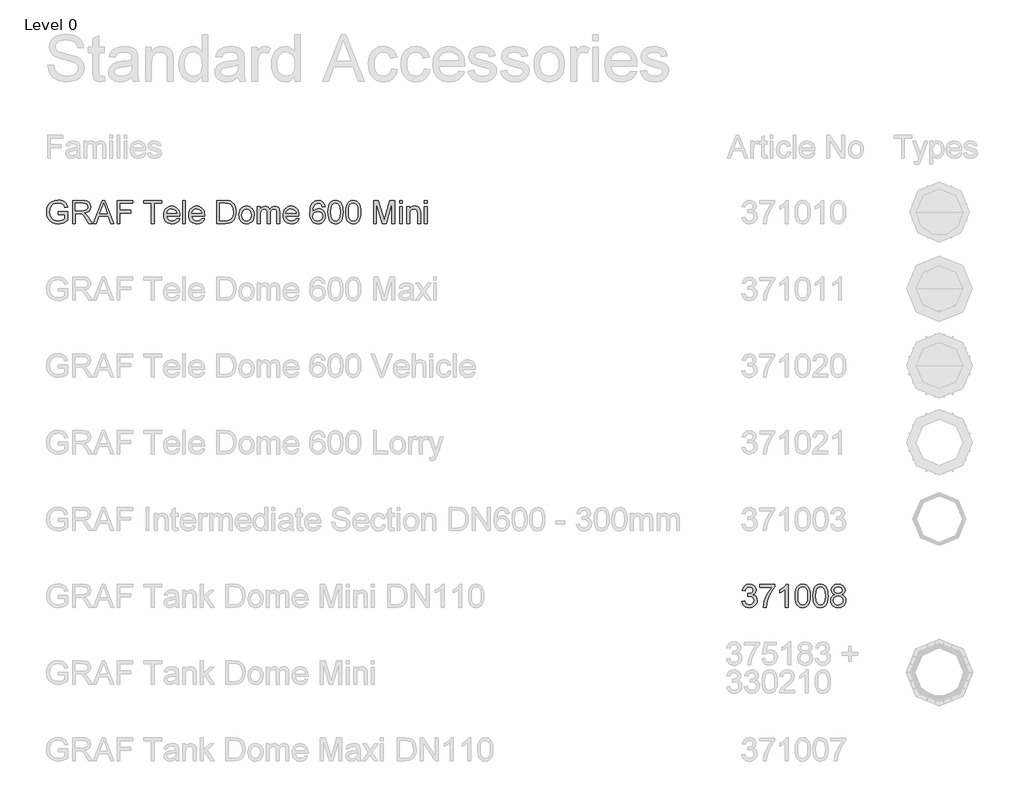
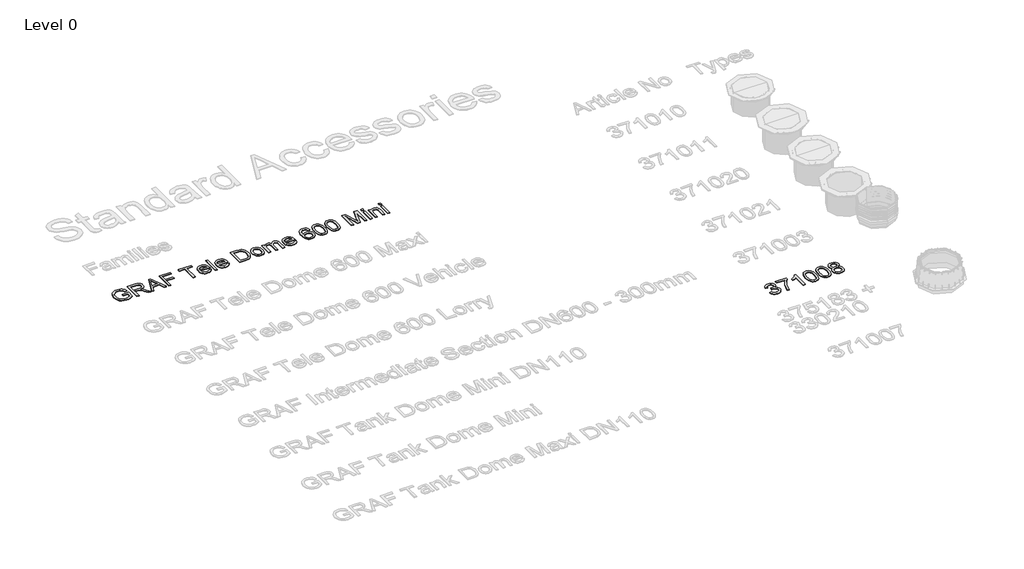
# One storey, part 9 of 19: 2 proxies.
"""IFC4 building model written with IfcOpenShell, lengths in millimetres."""

from ifc_helpers import new_model, si_unit, origin, origin_with_axes, place, context, project, spatial, polyline, outline, extrude, element, save

model = new_model("IFC4")

# Units and contexts
model_context = context("Model", 3, world=origin())
ifc_project = project(units=[si_unit("LENGTHUNIT", "METRE", prefix="MILLI")], contexts=[model_context])

# Site, building, storey
site = spatial("IfcSite", under=ifc_project)
building = spatial("IfcBuilding", under=site)
storey = spatial("IfcBuildingStorey", under=building, Name="Level 0", Elevation=0.0)

# Proxies
placement = place(None, origin())
element("IfcBuildingElementProxy", 1, Name="300mm Arial", ObjectType="300mm Arial", at=placement, inside=storey, context=model_context, shape_type="SweptSolid", body=[
    extrude(outline(polyline([(-15240.9940387, -9082.9794047), (-15240.9940387, -9045.3082884), (-15118.5629107, -9045.3082884), (-15118.5629107, -9157.9537553), (-15148.3153671, -9178.6471176), (-15179.0059225, -9193.4911561), (-15210.5610007, -9202.4306885), (-15242.9070251, -9205.4105327), (-15285.1674693, -9200.674052), (-15323.3628175, -9186.46461), (-15355.0926395, -9163.2788472), (-15377.9565055, -9131.6134045), (-15391.7796715, -9093.6295885), (-15396.3873935, -9051.4887059), (-15391.7980656, -9009.0443207), (-15378.0300819, -8969.5613856), (-15355.6536596, -8936.442809), (-15325.2390156, -8913.0914993), (-15288.1932987, -8899.2407422), (-15245.9236575, -8894.6238232), (-15214.8928112, -8897.3001647), (-15186.9889618, -8905.3291892), (-15163.4904994, -8918.1314827), (-15145.6758138, -8935.1276309), (-15132.4964413, -8957.1361712), (-15122.9039183, -8984.9756412), (-15157.6319786, -8994.7613023), (-15165.3850917, -8974.9048716), (-15174.8120678, -8959.9228773), (-15187.2832674, -8948.6289001), (-15204.169051, -8939.8365204), (-15224.3013932, -8934.1803347), (-15246.5122687, -8932.2949395), (-15272.5123287, -8934.3274875), (-15294.7415982, -8940.4251316), (-15313.1173039, -8949.8245166), (-15327.5566722, -8961.7622873), (-15346.9440533, -8990.7881767), (-15355.7732212, -9019.225455), (-15358.7162772, -9049.9436015), (-15355.175413, -9085.9684459), (-15344.5528204, -9115.6105377), (-15327.1703961, -9138.6583447), (-15303.3500369, -9154.9003348), (-15275.4737787, -9164.529646), (-15245.9236575, -9167.7394164), (-15219.831627, -9165.3205923), (-15194.3833899, -9158.0641199), (-15172.2828791, -9148.0669267), (-15156.234027, -9137.42594), (-15156.234027, -9082.9794047), (-15240.9940387, -9082.9794047)])), origin_with_axes(), (0.0, 0.0, 1.0), 10.0),
    extrude(outline(polyline([(-15057.3473467, -9200.7016432), (-15057.3473467, -8899.3327127), (-14927.4850024, -8899.3327127), (-14892.5821982, -8901.3652607), (-14867.1891434, -8907.4629048), (-14848.6294968, -8918.7200939), (-14834.2269167, -8936.2312768), (-14824.9838815, -8957.9455116), (-14821.9028698, -8981.811856), (-14827.0072325, -9011.4999331), (-14842.3203206, -9036.1112385), (-14853.9200997, -9046.1406214), (-14868.3019865, -9054.1558504), (-14905.4120827, -9064.1438466), (-14884.0013506, -9080.257078), (-14853.467145, -9119.0318402), (-14803.2144645, -9200.7016432), (-14846.9924219, -9200.7016432), (-14886.2086426, -9138.2352804), (-14914.5355562, -9096.8853441), (-14934.4379722, -9077.3508102), (-14952.3538253, -9070.1771113), (-14974.2060158, -9068.8527361), (-15019.6762304, -9068.8527361), (-15019.6762304, -9200.7016432), (-15057.3473467, -9200.7016432)]), holes=[polyline([(-15019.6762304, -9031.1816198), (-14935.3576771, -9031.1816198), (-14911.1418448, -9029.8480476), (-14892.3522719, -9025.8473309), (-14878.2072092, -9018.9127553), (-14867.9249074, -9008.7776063), (-14861.6617165, -8996.5179388), (-14859.5739861, -8983.2098076), (-14863.5563087, -8964.834102), (-14875.5032765, -8950.0268517), (-14896.058683, -8940.2595847), (-14925.8663217, -8937.003829), (-15019.6762304, -8937.003829), (-15019.6762304, -9031.1816198)])]), origin_with_axes(), (0.0, 0.0, 1.0), 10.0),
    extrude(outline(polyline([(-14791.0743586, -9200.7016432), (-14670.7769462, -8899.3327127), (-14638.6976362, -8899.3327127), (-14518.4002238, -9200.7016432), (-14558.2050557, -9200.7016432), (-14592.7123868, -9106.5238524), (-14716.835772, -9106.5238524), (-14751.2695268, -9200.7016432), (-14791.0743586, -9200.7016432)]), holes=[polyline([(-14703.003409, -9068.8527361), (-14606.4711735, -9068.8527361), (-14633.6208647, -8994.7613023), (-14654.7372912, -8937.003829), (-14673.499273, -8988.2865792), (-14703.003409, -9068.8527361)])]), origin_with_axes(), (0.0, 0.0, 1.0), 10.0),
    extrude(outline(polyline([(-14478.1539335, -9200.7016432), (-14478.1539335, -8899.3327127), (-14275.6716834, -8899.3327127), (-14275.6716834, -8937.003829), (-14440.4828172, -8937.003829), (-14440.4828172, -9026.4727303), (-14299.2161311, -9026.4727303), (-14299.2161311, -9064.1438466), (-14440.4828172, -9064.1438466), (-14440.4828172, -9200.7016432), (-14478.1539335, -9200.7016432)])), origin_with_axes(), (0.0, 0.0, 1.0), 10.0),
    extrude(outline(polyline([(-14030.8094274, -9200.7016432), (-14030.8094274, -8937.003829), (-14129.6961077, -8937.003829), (-14129.6961077, -8899.3327127), (-13894.2516308, -8899.3327127), (-13894.2516308, -8937.003829), (-13993.1383111, -8937.003829), (-13993.1383111, -9200.7016432), (-14030.8094274, -9200.7016432)])), origin_with_axes(), (0.0, 0.0, 1.0), 10.0),
    extrude(outline(polyline([(-13701.6286181, -9134.7771896), (-13664.6932658, -9139.4860792), (-13678.001397, -9167.3163521), (-13699.2373851, -9188.1200789), (-13727.9229837, -9201.0879193), (-13763.5799461, -9205.4105327), (-13786.9542484, -9203.5458308), (-13807.7809678, -9197.9517253), (-13826.0601045, -9188.6282159), (-13841.7916583, -9175.5753029), (-13854.4422004, -9159.1562696), (-13863.4783019, -9139.7343995), (-13868.8999628, -9117.3096927), (-13870.7071831, -9091.882149), (-13868.8815687, -9065.5923819), (-13863.4047255, -9042.4204147), (-13854.2766535, -9022.3662475), (-13841.4973527, -9005.4298801), (-13825.8071856, -8991.9745962), (-13807.9465147, -8982.363679), (-13787.9153401, -8976.5971288), (-13765.7136617, -8974.6749453), (-13744.2270539, -8976.5925302), (-13724.7959868, -8982.3452849), (-13707.4204603, -8991.9332094), (-13692.1004744, -9005.3563037), (-13679.5947859, -9022.2558829), (-13670.6621512, -9042.2732619), (-13665.3025704, -9065.4084409), (-13663.5160434, -9091.6614198), (-13663.7367726, -9101.8149629), (-13833.0360668, -9101.8149629), (-13826.5153584, -9130.0131178), (-13811.3678173, -9150.7432682), (-13789.5064297, -9163.4903794), (-13762.8441821, -9167.7394164), (-13742.7946134, -9165.7712477), (-13725.9088298, -9159.8667417), (-13712.1868314, -9149.6580163), (-13701.6286181, -9134.7771896)]), holes=[polyline([(-13833.0360668, -9064.1438466), (-13701.1871597, -9064.1438466), (-13706.2823254, -9044.2414306), (-13716.2703215, -9030.0043974), (-13738.2328766, -9016.7606456), (-13765.8608145, -9012.3460616), (-13791.2538692, -9015.8685317), (-13812.2507341, -9026.4359421), (-13826.8464522, -9042.9078584), (-13833.0360668, -9064.1438466)])]), origin_with_axes(), (0.0, 0.0, 1.0), 10.0),
    extrude(outline(polyline([(-13625.8449271, -9200.7016432), (-13625.8449271, -8899.3327127), (-13588.1738108, -8899.3327127), (-13588.1738108, -9200.7016432), (-13625.8449271, -9200.7016432)])), origin_with_axes(), (0.0, 0.0, 1.0), 10.0),
    extrude(outline(polyline([(-13376.71524, -9134.7771896), (-13339.7798877, -9139.4860792), (-13353.0880188, -9167.3163521), (-13374.324007, -9188.1200789), (-13403.0096056, -9201.0879193), (-13438.666568, -9205.4105327), (-13462.0408702, -9203.5458308), (-13482.8675897, -9197.9517253), (-13501.1467263, -9188.6282159), (-13516.8782801, -9175.5753029), (-13529.5288222, -9159.1562696), (-13538.5649238, -9139.7343995), (-13543.9865847, -9117.3096927), (-13545.793805, -9091.882149), (-13543.9681906, -9065.5923819), (-13538.4913474, -9042.4204147), (-13529.3632754, -9022.3662475), (-13516.5839745, -9005.4298801), (-13500.8938074, -8991.9745962), (-13483.0331366, -8982.363679), (-13463.0019619, -8976.5971288), (-13440.8002835, -8974.6749453), (-13419.3136758, -8976.5925302), (-13399.8826086, -8982.3452849), (-13382.5070821, -8991.9332094), (-13367.1870963, -9005.3563037), (-13354.6814077, -9022.2558829), (-13345.748773, -9042.2732619), (-13340.3891922, -9065.4084409), (-13338.6026653, -9091.6614198), (-13338.8233945, -9101.8149629), (-13508.1226887, -9101.8149629), (-13501.6019803, -9130.0131178), (-13486.4544391, -9150.7432682), (-13464.5930516, -9163.4903794), (-13437.930804, -9167.7394164), (-13417.8812352, -9165.7712477), (-13400.9954517, -9159.8667417), (-13387.2734532, -9149.6580163), (-13376.71524, -9134.7771896)]), holes=[polyline([(-13508.1226887, -9064.1438466), (-13376.2737816, -9064.1438466), (-13381.3689472, -9044.2414306), (-13391.3569434, -9030.0043974), (-13413.3194985, -9016.7606456), (-13440.9474363, -9012.3460616), (-13466.3404911, -9015.8685317), (-13487.3373559, -9026.4359421), (-13501.9330741, -9042.9078584), (-13508.1226887, -9064.1438466)])]), origin_with_axes(), (0.0, 0.0, 1.0), 10.0),
    extrude(outline(polyline([(-13178.500421, -9200.7016432), (-13178.500421, -8899.3327127), (-13074.5369691, -8899.3327127), (-13020.7526214, -8903.6737203), (-12996.7299272, -8912.0430357), (-12976.4596292, -8925.2316052), (-12955.6191142, -8948.1874417), (-12940.7750757, -8976.7350845), (-12931.8907255, -9010.3227107), (-12928.9292754, -9048.3984972), (-12930.9342323, -9080.7445216), (-12936.9491029, -9109.209391), (-12946.1093646, -9133.4436174), (-12957.5504947, -9153.097713), (-12970.7206701, -9168.6131361), (-12985.0680679, -9180.4313452), (-13001.5399842, -9189.1961338), (-13021.0837152, -9195.5512952), (-13069.533774, -9200.7016432), (-13178.500421, -9200.7016432)]), holes=[polyline([(-13140.8293047, -9163.0305269), (-13074.1690871, -9163.0305269), (-13046.5963316, -9161.6693635), (-13025.6822402, -9157.5858733), (-13009.9001026, -9151.0191797), (-12997.7232085, -9142.2084059), (-12984.6358066, -9125.9020365), (-12974.8041602, -9104.794807), (-12968.6513339, -9078.794747), (-12966.6003918, -9047.809886), (-12970.6195026, -9006.7542553), (-12982.6768349, -8976.4407789), (-13000.4915206, -8955.618658), (-13021.782691, -8943.0370938), (-13043.4509405, -8938.5121452), (-13075.1991567, -8937.003829), (-13140.8293047, -8937.003829), (-13140.8293047, -9163.0305269)])]), origin_with_axes(), (0.0, 0.0, 1.0), 10.0),
    extrude(outline(polyline([(-12891.2581591, -9090.042739), (-12889.2210126, -9061.3801331), (-12883.1095729, -9036.6814556), (-12872.9238402, -9015.9467067), (-12858.6638144, -8999.1758862), (-12844.3072195, -8988.4567246), (-12828.4607026, -8980.8001806), (-12811.1242635, -8976.2062541), (-12792.2979024, -8974.6749453), (-12771.514869, -8976.5396472), (-12752.7229968, -8982.1337528), (-12735.9222859, -8991.4572621), (-12721.1127364, -9004.5101751), (-12709.0255136, -9020.8510335), (-12700.391783, -9040.0383788), (-12695.2115447, -9062.0722111), (-12693.4847985, -9086.9525303), (-12696.5382191, -9125.0099227), (-12705.6984808, -9153.9806298), (-12720.6988691, -9175.6764705), (-12741.2726697, -9191.9092635), (-12765.7092312, -9202.0352154), (-12792.2979024, -9205.4105327), (-12813.3844386, -9203.5527286), (-12832.3510547, -9197.9793164), (-12849.1977508, -9188.690296), (-12863.9245269, -9175.6856675), (-12875.882991, -9159.18616), (-12884.4247511, -9139.4125028), (-12889.5498071, -9116.3646958), (-12891.2581591, -9090.042739)]), holes=[polyline([(-12853.5870428, -9089.9691626), (-12849.2276412, -9124.0626265), (-12836.1494363, -9148.3520353), (-12816.4677495, -9162.8925711), (-12792.2979024, -9167.7394164), (-12768.23842, -9162.86498), (-12748.5935214, -9148.2416707), (-12735.5153165, -9123.6303652), (-12731.1559148, -9088.7919402), (-12735.5429076, -9055.6917577), (-12748.703886, -9031.7334428), (-12768.3763757, -9017.1929069), (-12792.2979024, -9012.3460616), (-12816.4677495, -9017.1745128), (-12836.1494363, -9031.6598664), (-12849.2276412, -9055.8940928), (-12853.5870428, -9089.9691626)])]), origin_with_axes(), (0.0, 0.0, 1.0), 10.0),
    extrude(outline(polyline([(-12651.1047927, -9200.7016432), (-12651.1047927, -8979.3838349), (-12613.4336764, -8979.3838349), (-12613.4336764, -9015.8041524), (-12602.1029109, -8999.0747187), (-12587.5347839, -8985.9689226), (-12570.2259361, -8977.4984396), (-12550.673008, -8974.6749453), (-12529.7221284, -8977.5536219), (-12512.9283153, -8986.1896518), (-12500.3835393, -9000.0128178), (-12492.1797708, -9018.4529028), (-12478.4485753, -8999.3000464), (-12462.7859994, -8985.6194347), (-12445.1920429, -8977.4110677), (-12425.666706, -8974.6749453), (-12397.3489895, -8979.227485), (-12376.4073069, -8992.8851041), (-12363.4670577, -9016.0156845), (-12359.1536413, -9048.9871084), (-12359.1536413, -9200.7016432), (-12396.8247576, -9200.7016432), (-12396.8247576, -9065.1739161), (-12400.3196366, -9033.7200056), (-12405.2308612, -9025.0471875), (-12412.9747772, -9018.2321736), (-12422.9351822, -9013.8175896), (-12434.4958739, -9012.3460616), (-12454.9041276, -9016.1168521), (-12471.5415908, -9027.4292234), (-12482.6056419, -9047.0557279), (-12486.2936589, -9075.7689176), (-12486.2936589, -9200.7016432), (-12523.9647752, -9200.7016432), (-12523.9647752, -9060.9800614), (-12526.144476, -9039.6796939), (-12532.6835784, -9024.4861675), (-12544.1890878, -9015.3810881), (-12561.2680095, -9012.3460616), (-12575.7809542, -9014.3694126), (-12589.1534647, -9020.4394655), (-12600.1899246, -9030.4090676), (-12607.6947173, -9044.131066), (-12611.9989366, -9063.1689593), (-12613.4336764, -9089.0862458), (-12613.4336764, -9200.7016432), (-12651.1047927, -9200.7016432)])), origin_with_axes(), (0.0, 0.0, 1.0), 10.0),
    extrude(outline(polyline([(-12147.6950705, -9134.7771896), (-12110.7597182, -9139.4860792), (-12124.0678494, -9167.3163521), (-12145.3038375, -9188.1200789), (-12173.9894361, -9201.0879193), (-12209.6463985, -9205.4105327), (-12233.0207007, -9203.5458308), (-12253.8474202, -9197.9517253), (-12272.1265568, -9188.6282159), (-12287.8581107, -9175.5753029), (-12300.5086528, -9159.1562696), (-12309.5447543, -9139.7343995), (-12314.9664152, -9117.3096927), (-12316.7736355, -9091.882149), (-12314.9480211, -9065.5923819), (-12309.4711779, -9042.4204147), (-12300.3431059, -9022.3662475), (-12287.5638051, -9005.4298801), (-12271.873638, -8991.9745962), (-12254.0129671, -8982.363679), (-12233.9817925, -8976.5971288), (-12211.7801141, -8974.6749453), (-12190.2935063, -8976.5925302), (-12170.8624391, -8982.3452849), (-12153.4869127, -8991.9332094), (-12138.1669268, -9005.3563037), (-12125.6612382, -9022.2558829), (-12116.7286035, -9042.2732619), (-12111.3690227, -9065.4084409), (-12109.5824958, -9091.6614198), (-12109.803225, -9101.8149629), (-12279.1025192, -9101.8149629), (-12272.5818108, -9130.0131178), (-12257.4342697, -9150.7432682), (-12235.5728821, -9163.4903794), (-12208.9106345, -9167.7394164), (-12188.8610658, -9165.7712477), (-12171.9752822, -9159.8667417), (-12158.2532838, -9149.6580163), (-12147.6950705, -9134.7771896)]), holes=[polyline([(-12279.1025192, -9064.1438466), (-12147.2536121, -9064.1438466), (-12152.3487777, -9044.2414306), (-12162.3367739, -9030.0043974), (-12184.299329, -9016.7606456), (-12211.9272668, -9012.3460616), (-12237.3203216, -9015.8685317), (-12258.3171864, -9026.4359421), (-12272.9129046, -9042.9078584), (-12279.1025192, -9064.1438466)])]), origin_with_axes(), (0.0, 0.0, 1.0), 10.0),
    extrude(outline(polyline([(-11770.542449, -8979.3838349), (-11808.2135653, -8984.0927244), (-11814.2836183, -8965.4227132), (-11822.4873868, -8952.675602), (-11839.5755054, -8940.9217723), (-11860.2320795, -8937.003829), (-11877.7432624, -8939.2846974), (-11894.2243758, -8946.1273025), (-11908.3786356, -8960.5390797), (-11919.9393273, -8980.3771163), (-11927.7476226, -9008.4373154), (-11930.6446933, -9047.5155804), (-11915.5339404, -9029.8848358), (-11897.4249492, -9017.4596214), (-11877.3293952, -9010.0927844), (-11856.2589539, -9007.6371721), (-11838.1591597, -9009.3156337), (-11821.4573172, -9014.3510185), (-11806.1534262, -9022.7433265), (-11792.2474868, -9034.4925578), (-11780.6913936, -9048.8997364), (-11772.4370413, -9065.2658866), (-11767.48443, -9083.5910085), (-11765.8335595, -9103.875102), (-11768.9421624, -9130.8500493), (-11778.2679709, -9155.856828), (-11793.038433, -9177.065225), (-11812.4809965, -9192.6450275), (-11835.7127445, -9202.2191564), (-11861.8507602, -9205.4105327), (-11884.3076568, -9203.2952112), (-11904.589451, -9196.9492468), (-11922.696143, -9186.3726395), (-11938.6277326, -9171.5653892), (-11951.6162663, -9151.9020965), (-11960.8937904, -9126.7573621), (-11966.4603048, -9096.131186), (-11968.3158096, -9060.0235682), (-11966.2556705, -9019.5427532), (-11960.075253, -8984.9940353), (-11949.7745571, -8956.3774146), (-11935.3535829, -8933.6928911), (-11919.7231966, -8918.660313), (-11901.6004098, -8907.9227573), (-11880.9852225, -8901.4802239), (-11857.8776347, -8899.3327127), (-11824.8234374, -8904.6486076), (-11798.3543279, -8920.596292), (-11779.8130753, -8945.9249674), (-11770.542449, -8979.3838349)]), holes=[polyline([(-11930.6446933, -9103.2864908), (-11928.4649925, -9119.9791364), (-11921.9258901, -9135.9176238), (-11911.772347, -9149.6212281), (-11898.7493244, -9159.6092243), (-11883.0315661, -9165.7068684), (-11864.7938162, -9167.7394164), (-11839.9341904, -9163.5271676), (-11820.3904594, -9150.890421), (-11807.7261217, -9131.0247933), (-11803.5046758, -9105.1259008), (-11807.6709394, -9080.266275), (-11820.1697302, -9061.3111552), (-11840.044555, -9049.3090051), (-11866.3389206, -9045.3082884), (-11891.1617582, -9049.3090051), (-11911.9194998, -9061.3111552), (-11925.9633949, -9079.8064225), (-11930.6446933, -9103.2864908)])]), origin_with_axes(), (0.0, 0.0, 1.0), 10.0),
    extrude(outline(polyline([(-11732.8713327, -9052.4451991), (-11730.1030207, -9004.2066725), (-11721.7980847, -8965.7354129), (-11708.0392981, -8936.442809), (-11688.9094343, -8915.7402497), (-11664.2705377, -8903.434597), (-11633.9846524, -8899.3327127), (-11610.7712985, -8901.7607339), (-11589.9859658, -8909.0447974), (-11572.6035415, -8920.8997947), (-11559.598913, -8937.0406172), (-11549.7764637, -8957.3293093), (-11541.9405772, -8981.627915), (-11536.8086234, -9012.4840174), (-11535.0979721, -9052.4451991), (-11537.838693, -9100.4078142), (-11546.0608556, -9138.7871034), (-11559.7368687, -9168.1072984), (-11578.8391413, -9188.8926311), (-11603.5332203, -9201.2810573), (-11633.9846524, -9205.4105327), (-11654.733197, -9203.617108), (-11673.1272967, -9198.2368338), (-11689.1669517, -9189.2697102), (-11702.8521619, -9176.7157371), (-11715.9855492, -9154.0220165), (-11725.36654, -9125.7456867), (-11730.9951346, -9091.8867475), (-11732.8713327, -9052.4451991)]), holes=[polyline([(-11695.2002164, -9052.3716227), (-11690.7856325, -9111.6282151), (-11685.2674026, -9131.8962138), (-11677.5418807, -9145.9240141), (-11657.8234057, -9162.2855658), (-11633.9846524, -9167.7394164), (-11610.1458991, -9162.2671717), (-11590.4274242, -9145.8504377), (-11582.7019023, -9131.7996447), (-11577.1836724, -9111.5362446), (-11572.7690884, -9052.3716227), (-11577.0365196, -8994.4486026), (-11582.3708085, -8974.2472825), (-11589.838813, -8959.8860891), (-11609.5204997, -8942.7243941), (-11634.4261108, -8937.003829), (-11658.0073467, -8942.0438124), (-11676.9532695, -8957.1637624), (-11684.9363088, -8972.7987472), (-11690.6384797, -8993.8783855), (-11695.2002164, -9052.3716227)])]), origin_with_axes(), (0.0, 0.0, 1.0), 10.0),
    extrude(outline(polyline([(-11502.1357454, -9052.4451991), (-11499.3674333, -9004.2066725), (-11491.0624973, -8965.7354129), (-11477.3037107, -8936.442809), (-11458.1738469, -8915.7402497), (-11433.5349503, -8903.434597), (-11403.2490651, -8899.3327127), (-11380.0357112, -8901.7607339), (-11359.2503784, -8909.0447974), (-11341.8679542, -8920.8997947), (-11328.8633256, -8937.0406172), (-11319.0408764, -8957.3293093), (-11311.2049899, -8981.627915), (-11306.073036, -9012.4840174), (-11304.3623847, -9052.4451991), (-11307.1031056, -9100.4078142), (-11315.3252682, -9138.7871034), (-11329.0012814, -9168.1072984), (-11348.103554, -9188.8926311), (-11372.7976329, -9201.2810573), (-11403.2490651, -9205.4105327), (-11423.9976096, -9203.617108), (-11442.3917093, -9198.2368338), (-11458.4313643, -9189.2697102), (-11472.1165745, -9176.7157371), (-11485.2499618, -9154.0220165), (-11494.6309527, -9125.7456867), (-11500.2595472, -9091.8867475), (-11502.1357454, -9052.4451991)]), holes=[polyline([(-11464.464629, -9052.3716227), (-11460.0500451, -9111.6282151), (-11454.5318152, -9131.8962138), (-11446.8062933, -9145.9240141), (-11427.0878183, -9162.2855658), (-11403.2490651, -9167.7394164), (-11379.4103118, -9162.2671717), (-11359.6918368, -9145.8504377), (-11351.9663149, -9131.7996447), (-11346.448085, -9111.5362446), (-11342.0335011, -9052.3716227), (-11346.3009322, -8994.4486026), (-11351.6352211, -8974.2472825), (-11359.1032256, -8959.8860891), (-11378.7849124, -8942.7243941), (-11403.6905234, -8937.003829), (-11427.2717593, -8942.0438124), (-11446.2176821, -8957.1637624), (-11454.2007214, -8972.7987472), (-11459.9028923, -8993.8783855), (-11464.464629, -9052.3716227)])]), origin_with_axes(), (0.0, 0.0, 1.0), 10.0),
    extrude(outline(polyline([(-11139.5512509, -9200.7016432), (-11139.5512509, -8899.3327127), (-11074.7304434, -8899.3327127), (-11013.073421, -9111.7477767), (-11000.6390095, -9156.1143454), (-10987.1745285, -9108.0689568), (-10926.5475757, -8899.3327127), (-10861.7267682, -8899.3327127), (-10861.7267682, -9200.7016432), (-10899.3978845, -9200.7016432), (-10899.3978845, -8937.003829), (-10975.1079991, -9200.7016432), (-11026.17002, -9200.7016432), (-11101.8801346, -8937.003829), (-11101.8801346, -9200.7016432), (-11139.5512509, -9200.7016432)])), origin_with_axes(), (0.0, 0.0, 1.0), 10.0),
    extrude(outline(polyline([(-10800.5112042, -8937.003829), (-10800.5112042, -8899.3327127), (-10762.8400878, -8899.3327127), (-10762.8400878, -8937.003829), (-10800.5112042, -8937.003829)])), origin_with_axes(), (0.0, 0.0, 1.0), 10.0),
    extrude(outline(polyline([(-10800.5112042, -9200.7016432), (-10800.5112042, -8979.3838349), (-10762.8400878, -8979.3838349), (-10762.8400878, -9200.7016432), (-10800.5112042, -9200.7016432)])), origin_with_axes(), (0.0, 0.0, 1.0), 10.0),
    extrude(outline(polyline([(-10706.3334134, -9200.7016432), (-10706.3334134, -8979.3838349), (-10668.6622971, -8979.3838349), (-10668.6622971, -9010.2859225), (-10655.5748951, -8994.70612), (-10639.8571369, -8983.5776896), (-10621.5090224, -8976.9006314), (-10600.5305516, -8974.6749453), (-10581.9617079, -8976.4683701), (-10564.9563626, -8981.8486442), (-10550.7745117, -8990.1443832), (-10540.676151, -9000.6842024), (-10529.3821737, -9028.3857166), (-10527.3956109, -9064.8060342), (-10527.3956109, -9200.7016432), (-10565.0667272, -9200.7016432), (-10565.0667272, -9069.8828057), (-10569.4077348, -9036.5526969), (-10575.4134084, -9026.6290801), (-10584.748414, -9018.9311494), (-10596.7137759, -9013.9923336), (-10610.6105182, -9012.3460616), (-10632.6742409, -9016.0432757), (-10651.4822079, -9027.1349178), (-10658.9984969, -9036.1894135), (-10664.3672748, -9048.5640441), (-10668.6622971, -9083.2737103), (-10668.6622971, -9200.7016432), (-10706.3334134, -9200.7016432)])), origin_with_axes(), (0.0, 0.0, 1.0), 10.0),
    extrude(outline(polyline([(-10475.597826, -8937.003829), (-10475.597826, -8899.3327127), (-10437.9267097, -8899.3327127), (-10437.9267097, -8937.003829), (-10475.597826, -8937.003829)])), origin_with_axes(), (0.0, 0.0, 1.0), 10.0),
    extrude(outline(polyline([(-10475.597826, -9200.7016432), (-10475.597826, -8979.3838349), (-10437.9267097, -8979.3838349), (-10437.9267097, -9200.7016432), (-10475.597826, -9200.7016432)])), origin_with_axes(), (0.0, 0.0, 1.0), 10.0),
])
element("IfcBuildingElementProxy", 2, Name="300mm Arial", ObjectType="300mm Arial", at=placement, inside=storey, context=model_context, shape_type="SweptSolid", body=[
    extrude(outline(polyline([(-6342.0538732, -14120.650521), (-6304.3827568, -14115.9416315), (-6295.9490621, -14139.6148379), (-6283.5974241, -14155.5993106), (-6266.7208376, -14164.7043899), (-6244.7122972, -14167.7394164), (-6218.8869812, -14163.5639558), (-6198.947777, -14151.0375738), (-6186.2006659, -14132.3491685), (-6181.9516289, -14109.6876376), (-6186.1638777, -14088.1757379), (-6198.8006242, -14070.7289343), (-6217.930488, -14059.1682426), (-6241.6220885, -14055.3146787), (-6268.0360157, -14059.434957), (-6263.842161, -14021.7638407), (-6257.8088963, -14022.2052991), (-6235.2393359, -14019.5013664), (-6215.0610084, -14011.3895685), (-6200.8239752, -13997.66757), (-6196.0782975, -13978.1330361), (-6199.5179941, -13961.8634549), (-6209.8370841, -13948.6656883), (-6225.5824335, -13939.9192938), (-6245.3009084, -13937.003829), (-6265.0561716, -13939.946885), (-6281.2061912, -13948.7760529), (-6292.9968091, -13963.4913327), (-6299.6738673, -13984.0927244), (-6337.3449836, -13979.3838349), (-6326.2533415, -13945.5570854), (-6306.5164724, -13920.3019864), (-6279.513934, -13904.5750312), (-6246.6252836, -13899.3327127), (-6222.9428802, -13901.9170837), (-6201.1918572, -13909.6701968), (-6182.8529397, -13921.9022731), (-6169.4068528, -13937.923534), (-6161.1570991, -13956.3820131), (-6158.4071812, -13975.9257441), (-6161.0191433, -13994.1359029), (-6168.8550298, -14010.6538045), (-6181.8044761, -14024.7252908), (-6199.7571174, -14035.5962037), (-6176.1758815, -14045.1243474), (-6158.7014868, -14061.3479434), (-6147.8857561, -14083.3840749), (-6144.2805125, -14110.3498252), (-6146.0831343, -14129.4612948), (-6151.4909997, -14147.0644483), (-6160.5041085, -14163.1592856), (-6173.122461, -14177.7458067), (-6188.4953298, -14189.8491243), (-6205.771988, -14198.4943512), (-6224.9524356, -14203.6814873), (-6246.0366724, -14205.4105327), (-6265.0929598, -14203.9344062), (-6282.4569899, -14199.5060267), (-6298.1287629, -14192.1253942), (-6312.1082787, -14181.7925086), (-6323.8299188, -14169.1143754), (-6332.7280646, -14154.6979997), (-6338.802716, -14138.5433816), (-6342.0538732, -14120.650521)])), origin_with_axes(), (0.0, 0.0, 1.0), 10.0),
    extrude(outline(polyline([(-6111.3182858, -13941.7127186), (-6111.3182858, -13904.0416023), (-5913.5449252, -13904.0416023), (-5913.5449252, -13934.5022315), (-5941.7338831, -13970.1775879), (-5969.6469294, -14015.546635), (-5994.267432, -14066.4707002), (-6012.5787583, -14118.811111), (-6021.555079, -14157.9721494), (-6026.5582741, -14200.7016432), (-6064.2293904, -14200.7016432), (-6060.1550973, -14161.8716986), (-6049.2565932, -14115.7209023), (-6031.8281837, -14066.801794), (-6008.1641743, -14019.6669133), (-5980.5362365, -13977.0569813), (-5951.2160415, -13941.7127186), (-6111.3182858, -13941.7127186)])), origin_with_axes(), (0.0, 0.0, 1.0), 10.0),
    extrude(outline(polyline([(-5739.3160123, -14200.7016432), (-5776.9871286, -14200.7016432), (-5776.9871286, -13965.8457775), (-5812.6716821, -13991.2664233), (-5852.3293612, -14010.2859225), (-5852.3293612, -13974.6749453), (-5822.7424517, -13958.580108), (-5797.1102737, -13939.4318502), (-5776.9043551, -13919.0695818), (-5763.5962239, -13899.3327127), (-5739.3160123, -13899.3327127), (-5739.3160123, -14200.7016432)])), origin_with_axes(), (0.0, 0.0, 1.0), 10.0),
    extrude(outline(polyline([(-5649.847111, -14052.4451991), (-5647.078799, -14004.2066725), (-5638.773863, -13965.7354129), (-5625.0150764, -13936.442809), (-5605.8852126, -13915.7402497), (-5581.246316, -13903.434597), (-5550.9604307, -13899.3327127), (-5527.7470768, -13901.7607339), (-5506.9617441, -13909.0447974), (-5489.5793198, -13920.8997947), (-5476.5746913, -13937.0406172), (-5466.752242, -13957.3293093), (-5458.9163555, -13981.627915), (-5453.7844017, -14012.4840174), (-5452.0737504, -14052.4451991), (-5454.8144713, -14100.4078142), (-5463.0366339, -14138.7871034), (-5476.7126471, -14168.1072984), (-5495.8149197, -14188.8926311), (-5520.5089986, -14201.2810573), (-5550.9604307, -14205.4105327), (-5571.7089753, -14203.617108), (-5590.103075, -14198.2368338), (-5606.14273, -14189.2697102), (-5619.8279402, -14176.7157371), (-5632.9613275, -14154.0220165), (-5642.3423183, -14125.7456867), (-5647.9709129, -14091.8867475), (-5649.847111, -14052.4451991)]), holes=[polyline([(-5612.1759947, -14052.3716227), (-5607.7614108, -14111.6282151), (-5602.2431809, -14131.8962138), (-5594.517659, -14145.9240141), (-5574.799184, -14162.2855658), (-5550.9604307, -14167.7394164), (-5527.1216774, -14162.2671717), (-5507.4032025, -14145.8504377), (-5499.6776806, -14131.7996447), (-5494.1594507, -14111.5362446), (-5489.7448667, -14052.3716227), (-5494.0122979, -13994.4486026), (-5499.3465868, -13974.2472825), (-5506.8145913, -13959.8860891), (-5526.496278, -13942.7243941), (-5551.4018891, -13937.003829), (-5574.983125, -13942.0438124), (-5593.9290478, -13957.1637624), (-5601.9120871, -13972.7987472), (-5607.614258, -13993.8783855), (-5612.1759947, -14052.3716227)])]), origin_with_axes(), (0.0, 0.0, 1.0), 10.0),
    extrude(outline(polyline([(-5419.1115237, -14052.4451991), (-5416.3432116, -14004.2066725), (-5408.0382756, -13965.7354129), (-5394.279489, -13936.442809), (-5375.1496252, -13915.7402497), (-5350.5107286, -13903.434597), (-5320.2248434, -13899.3327127), (-5297.0114895, -13901.7607339), (-5276.2261567, -13909.0447974), (-5258.8437325, -13920.8997947), (-5245.8391039, -13937.0406172), (-5236.0166547, -13957.3293093), (-5228.1807682, -13981.627915), (-5223.0488143, -14012.4840174), (-5221.338163, -14052.4451991), (-5224.0788839, -14100.4078142), (-5232.3010465, -14138.7871034), (-5245.9770597, -14168.1072984), (-5265.0793323, -14188.8926311), (-5289.7734112, -14201.2810573), (-5320.2248434, -14205.4105327), (-5340.9733879, -14203.617108), (-5359.3674876, -14198.2368338), (-5375.4071426, -14189.2697102), (-5389.0923528, -14176.7157371), (-5402.2257401, -14154.0220165), (-5411.606731, -14125.7456867), (-5417.2353255, -14091.8867475), (-5419.1115237, -14052.4451991)]), holes=[polyline([(-5381.4404073, -14052.3716227), (-5377.0258234, -14111.6282151), (-5371.5075935, -14131.8962138), (-5363.7820716, -14145.9240141), (-5344.0635966, -14162.2855658), (-5320.2248434, -14167.7394164), (-5296.3860901, -14162.2671717), (-5276.6676151, -14145.8504377), (-5268.9420932, -14131.7996447), (-5263.4238633, -14111.5362446), (-5259.0092794, -14052.3716227), (-5263.2767105, -13994.4486026), (-5268.6109994, -13974.2472825), (-5276.0790039, -13959.8860891), (-5295.7606907, -13942.7243941), (-5320.6663017, -13937.003829), (-5344.2475376, -13942.0438124), (-5363.1934604, -13957.1637624), (-5371.1764997, -13972.7987472), (-5376.8786706, -13993.8783855), (-5381.4404073, -14052.3716227)])]), origin_with_axes(), (0.0, 0.0, 1.0), 10.0),
    extrude(outline(polyline([(-5133.4879426, -14034.7132869), (-5153.657073, -14024.7804731), (-5167.8113328, -14011.3159921), (-5176.1714511, -13994.5957554), (-5178.9581572, -13974.8956745), (-5177.440644, -13959.5320027), (-5172.8881043, -13945.4467208), (-5165.3005381, -13932.6398289), (-5154.6779455, -13921.1113268), (-5141.5307627, -13911.5831832), (-5126.369426, -13904.7773663), (-5090.0042908, -13899.3327127), (-5053.4184264, -13904.906125), (-5038.0915427, -13911.8728902), (-5024.7420248, -13921.6263616), (-5013.9262942, -13933.3801914), (-5006.2007723, -13946.3480317), (-5001.5654591, -13960.5298826), (-5000.0203548, -13975.9257441), (-5002.7702727, -13994.9912285), (-5011.0200264, -14011.4263567), (-5024.8615865, -14024.8080642), (-5044.3869234, -14034.7132869), (-5021.2011606, -14046.6602547), (-5004.3245741, -14064.2542112), (-4994.0330753, -14086.6490276), (-4990.6025757, -14112.9985755), (-4992.3040299, -14131.7881484), (-4997.4083926, -14149.0142229), (-5005.9156637, -14164.6767988), (-5017.8258433, -14178.7758763), (-5032.513532, -14190.4285385), (-5049.3533303, -14198.7518686), (-5068.3452383, -14203.7458667), (-5089.489256, -14205.4105327), (-5110.6332737, -14203.7389689), (-5129.6251817, -14198.7242774), (-5146.46498, -14190.3664584), (-5161.1526686, -14178.6655117), (-5173.0628482, -14164.4675659), (-5181.5701194, -14148.6187497), (-5186.6744821, -14131.119063), (-5188.3759363, -14111.9685059), (-5184.8074809, -14084.5980855), (-5174.1021149, -14062.0837074), (-5156.8116611, -14045.1979238), (-5133.4879426, -14034.7132869)]), holes=[polyline([(-5141.2870409, -13975.9993205), (-5137.9485118, -13992.4436457), (-5127.9329245, -14005.5770329), (-5111.5345845, -14014.1854716), (-5089.0477976, -14017.0549512), (-5067.0852425, -14014.2038657), (-5050.9352229, -14005.6506093), (-5041.002409, -13992.9586805), (-5037.6914711, -13977.6915777), (-5041.1127736, -13961.8450608), (-5051.3766813, -13948.7392647), (-5067.7474301, -13939.9376879), (-5089.489256, -13937.003829), (-5111.3690376, -13939.8733086), (-5127.7121953, -13948.4817473), (-5137.8933295, -13961.1000997), (-5141.2870409, -13975.9993205)]), polyline([(-5150.70482, -14110.6441308), (-5144.4140379, -14139.0078326), (-5135.7044316, -14151.1755296), (-5122.1571771, -14160.2346237), (-5105.9335812, -14165.8632182), (-5089.1949504, -14167.7394164), (-5063.5535753, -14163.793882), (-5044.313347, -14151.9572788), (-5032.2836057, -14134.0322286), (-5028.273692, -14111.8213531), (-5032.4123644, -14089.2333986), (-5044.8283818, -14070.9128753), (-5064.5100685, -14058.7727694), (-5090.4457492, -14054.7260675), (-5115.7284393, -14058.7175871), (-5134.7755296, -14070.6921461), (-5146.7224974, -14088.6631815), (-5150.70482, -14110.6441308)])]), origin_with_axes(), (0.0, 0.0, 1.0), 10.0),
])

save(model, "model.ifc")
